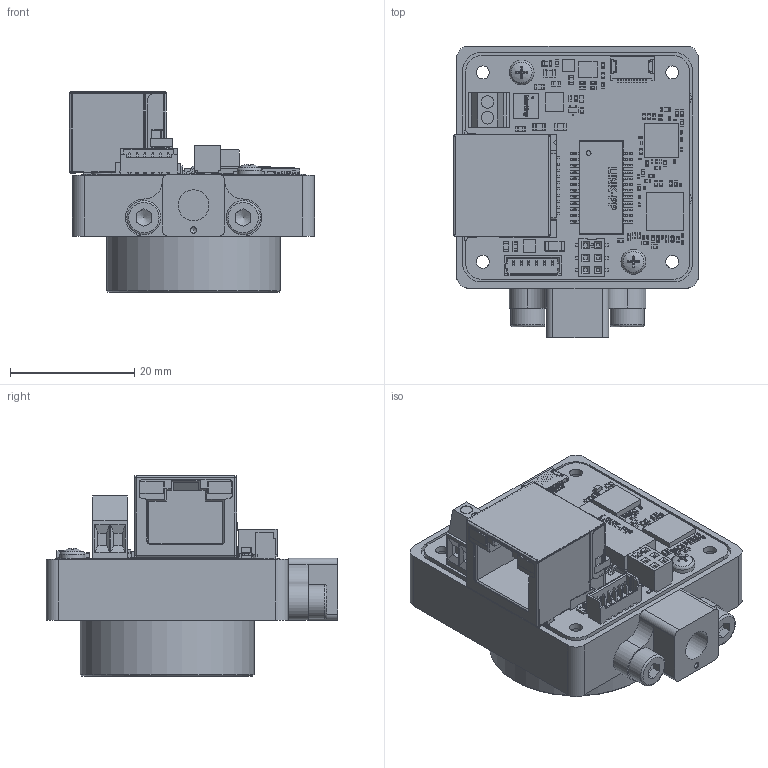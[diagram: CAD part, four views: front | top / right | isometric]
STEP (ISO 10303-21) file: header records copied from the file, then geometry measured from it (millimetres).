
FILE_DESCRIPTION(/* description */ (''),/* implementation_level */ '2;1');
FILE_NAME(/* name */ 'KSM_308-24-05-00-00_ZB C-MountKamera_GigE-4SB_AR2020.stp',/* time_stamp */ '2025-06-06T11:13:38+02:00',/* author */ ('khw'),/* organization */ ('TIS/ Germany'),/* preprocessor_version */ 'ST-DEVELOPER v20',/* originating_system */ 'Autodesk Inventor 2025',/* authorisation */ '520025 mm^3');
FILE_SCHEMA (('AUTOMOTIVE_DESIGN { 1 0 10303 214 3 1 1 }'));
Length unit declared in the file: millimetre
Products named in the file (4): KSM_308-24-05-00-00_ZB C-MountKamera_GigE-4SB_AR2020; 2_308-24-05-00-00_ZB C-MountKamera_GigE-4SB_AR2020; TripodAdapter 14-20-UNC; Zylinderschraube M3x6
Assembly tree (4 placements, depth 2):
  KSM_308-24-05-00-00_ZB C-MountKamera_GigE-4SB_AR2020
    2_308-24-05-00-00_ZB C-MountKamera_GigE-4SB_AR2020
    TripodAdapter 14-20-UNC
    Zylinderschraube M3x6  x2
Bounding box: 39.49 x 47 x 32.26 mm (x, y, z)
Volume: 16675.8 mm3; surface area: 14504.5 mm2
Topology: 10 solids, 10 shells, 8137 faces, 20014 edges, 11271 vertices
Faces by surface type: plane 3795, cylinder 2967, torus 654, sphere 650, cone 37, bspline 34
Full cylindrical faces by diameter (mm): 0.3 x1, 0.5 x6, 0.739 x1, 1 x1, 1.05 x2, 1.2 x2, 1.567 x2, 2.032 x2, 2.1 x4, 2.459 x8, 3 x2, 3.2 x2, 4.978 x1, 5.5 x2, 24.536 x1, 28 x1
Entity records: 239478 total; most frequent: DIRECTION 41501, CARTESIAN_POINT 40334, ORIENTED_EDGE 38640, EDGE_CURVE 19320, AXIS2_PLACEMENT_3D 14204, LINE 13093, VECTOR 13093, VERTEX_POINT 11247
